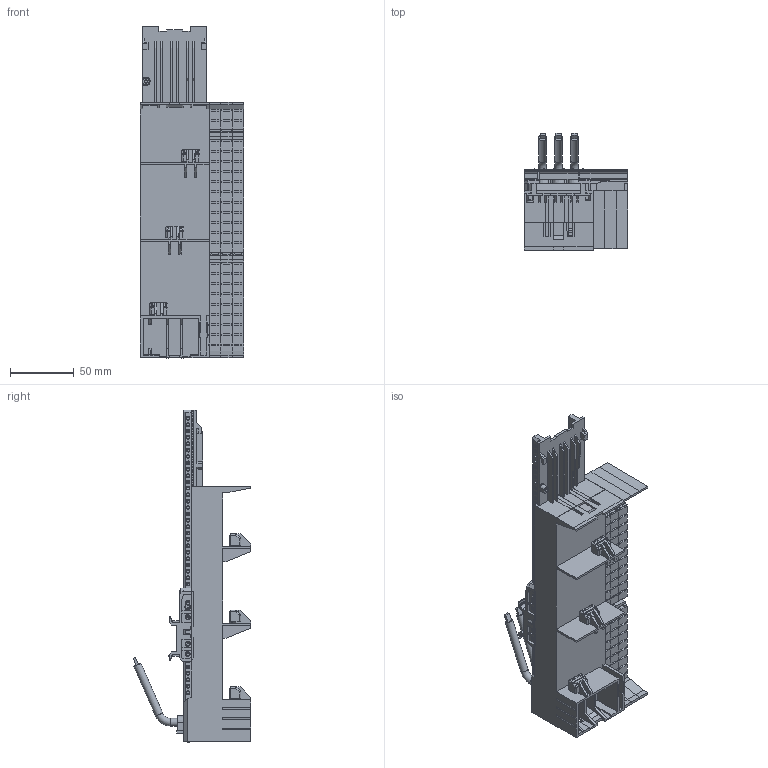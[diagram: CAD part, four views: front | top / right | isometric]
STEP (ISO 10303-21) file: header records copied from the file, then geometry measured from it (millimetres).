
FILE_DESCRIPTION (( 'STEP AP203' ), '1' );
FILE_NAME ('55378.STEP', '2021-08-18T06:39:10', ( '' ), ( '' ), 'SwSTEP 2.0', 'SolidWorks 2017', '' );
FILE_SCHEMA (( 'CONFIG_CONTROL_DESIGN' ));
Products named in the file (2): 55378
Bounding box: 81.05 x 92.2 x 260.2 mm (x, y, z)
Volume: 453775.7 mm3; surface area: 164499.4 mm2
Topology: 10 solids, 27 shells, 2987 faces, 8246 edges, 5533 vertices
Faces by surface type: plane 2142, cylinder 558, cone 214, bspline 70, torus 3
Full cylindrical faces by diameter (mm): 1.988 x176, 2.584 x1, 2.6 x14, 2.982 x6, 3.479 x4, 4.2 x2, 5.169 x2, 5.964 x7, 6 x6
Entity records: 116688 total; most frequent: CARTESIAN_POINT 45215, ORIENTED_EDGE 15294, DIRECTION 12919, EDGE_CURVE 7647, VERTEX_POINT 5356, VECTOR 5251, LINE 5251, AXIS2_PLACEMENT_3D 3834
